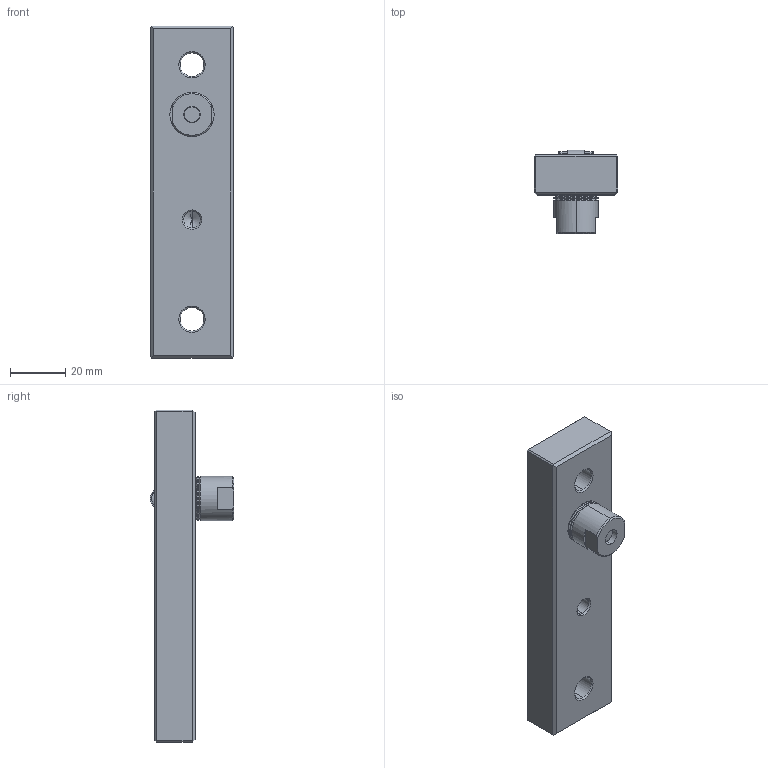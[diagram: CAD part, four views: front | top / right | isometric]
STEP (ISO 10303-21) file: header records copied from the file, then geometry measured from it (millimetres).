
FILE_DESCRIPTION (( 'STEP AP203' ), '1' );
FILE_NAME ('PRI30120.STEP', '2010-07-09T14:20:41', ( ' ' ), ( ' ' ), 'SwSTEP 2.0', 'SolidWorks 2005204', '' );
FILE_SCHEMA (( 'CONFIG_CONTROL_DESIGN' ));
Length unit declared in the file: millimetre
Products named in the file (8): SPINA 4X12; MOLLA-RR30; PRI30120; PERNO RULLINO8; RITENSORE 30; RULLINO8; CORPO RITENSORE8
Assembly tree (7 placements, depth 3):
  PRI30120
    RITENSORE 30
      SPINA 4X12
      CORPO RITENSORE8
      PERNO RULLINO8
      RULLINO8
      MOLLA-RR30
    PRI30120
Bounding box: 30 x 30.19 x 120 mm (x, y, z)
Volume: 50392.3 mm3; surface area: 17070.3 mm2
Topology: 6 solids, 6 shells, 172 faces, 382 edges, 226 vertices
Faces by surface type: cylinder 63, cone 53, plane 52, torus 2, bspline 2
Entity records: 6978 total; most frequent: CARTESIAN_POINT 2252, DIRECTION 882, ORIENTED_EDGE 758, EDGE_CURVE 379, AXIS2_PLACEMENT_3D 344, VERTEX_POINT 226, VECTOR 194, LINE 194
